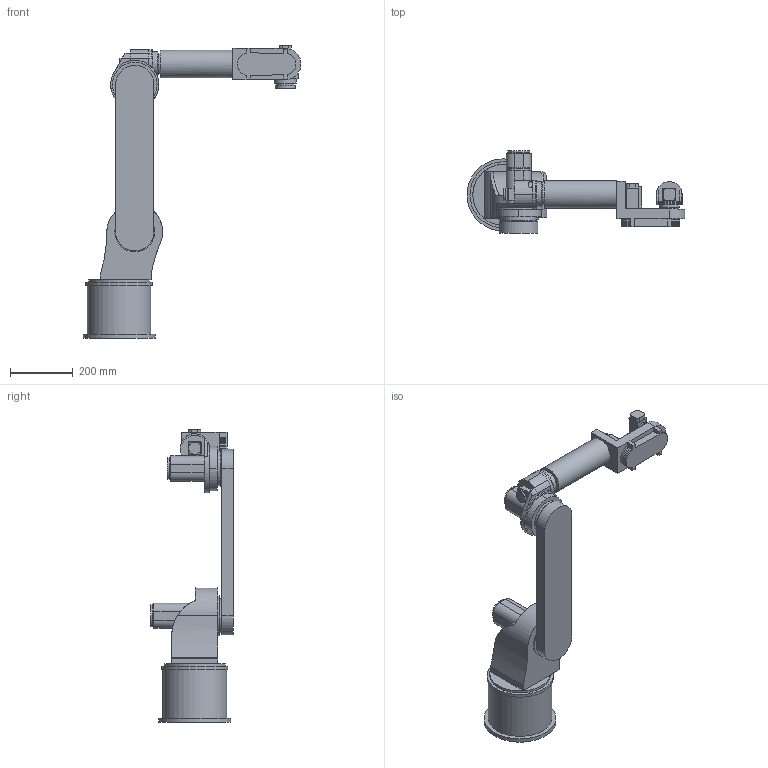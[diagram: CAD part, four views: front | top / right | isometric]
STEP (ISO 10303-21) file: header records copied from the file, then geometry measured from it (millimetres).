
FILE_DESCRIPTION(('Rosie 1000 exterior CAD: one filled solid per link at the zero pose, millimetres'),'2;1');
FILE_NAME('rosie_1000.step','2026-10-09T12:00:00',( 'Advanced Metal Research'),('Advanced Metal Research'),'AMR sim kit' ,'AMR sim kit','');
FILE_SCHEMA(('AUTOMOTIVE_DESIGN { 1 0 10303 214 1 1 1 1 }'));
Length unit declared in the file: millimetre
Products named in the file (8): rosie_1000; base_link; link_1; link_2; link_3; link_4; link_5; link_6
Assembly tree (7 placements, depth 2):
  rosie_1000
    base_link
    link_1
    link_2
    link_3
    link_4
    link_5
    link_6
Bounding box: 695 x 263.5 x 934.25 mm (x, y, z)
Volume: 19992383.8 mm3; surface area: 1005154.1 mm2
Topology: 7 solids, 7 shells, 417 faces, 1033 edges, 688 vertices
Faces by surface type: plane 274, cylinder 143
Full cylindrical faces by diameter (mm): 3.4 x8, 6 x5, 6.5 x8, 11 x6, 31.5 x1, 44.987 x1, 49.978 x1, 50.02 x1, 56 x1, 59.977 x1, 59.983 x1, 63 x1, 63.981 x1, 66 x1, 69.984 x1, 79.967 x1, 84.976 x1, 88 x1, 96 x1, 100 x1, 109.069 x1, 109.969 x1, 116 x1, 126.924 x1, 180 x1, 193.2 x1, 203.2 x1, 211.2 x1, 230 x1
Entity records: 13198 total; most frequent: CARTESIAN_POINT 2782, DIRECTION 2163, ORIENTED_EDGE 2066, EDGE_CURVE 1033, AXIS2_PLACEMENT_3D 727, LINE 709, VECTOR 709, VERTEX_POINT 688
